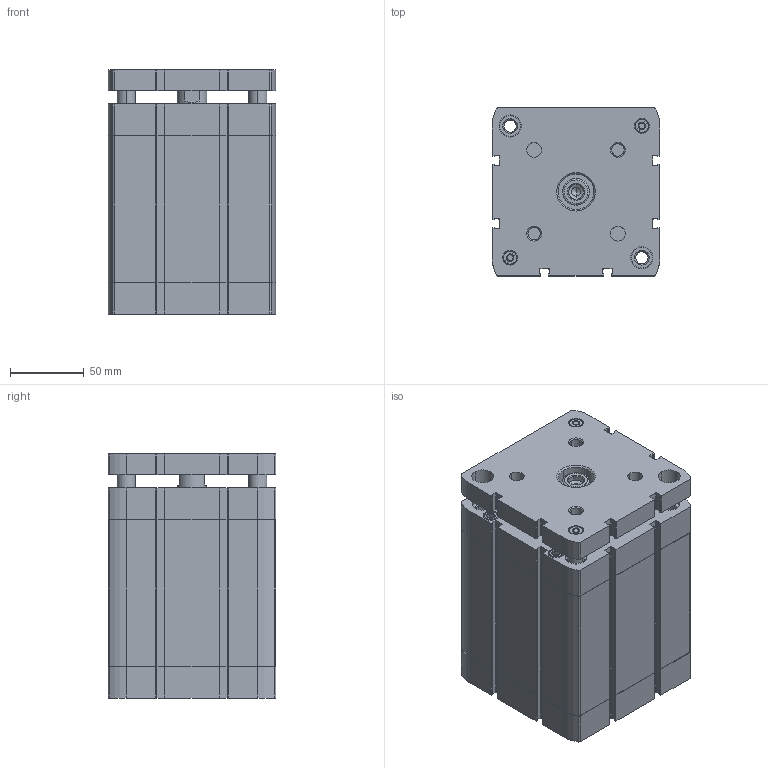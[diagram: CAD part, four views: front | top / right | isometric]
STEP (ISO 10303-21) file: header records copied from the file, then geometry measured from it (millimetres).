
FILE_DESCRIPTION (( 'STEP AP203' ), '1' );
FILE_NAME ('CCNG100-75.STEP', '2017-04-20T18:13:43', ( '' ), ( '' ), 'SwSTEP 2.0', 'SolidWorks 2016', '' );
FILE_SCHEMA (( 'CONFIG_CONTROL_DESIGN' ));
Length unit declared in the file: millimetre
Products named in the file (3): CCNG-100-75---(Z); CCNG-100-75----(KS); CCNG100-75
Assembly tree (2 placements, depth 2):
  CCNG100-75
    CCNG-100-75---(Z)
    CCNG-100-75----(KS)
Bounding box: 113.5 x 113.5 x 165 mm (x, y, z)
Volume: 1333514 mm3; surface area: 247605.9 mm2
Topology: 2 solids, 4 shells, 797 faces, 2098 edges, 1347 vertices
Faces by surface type: plane 343, cylinder 304, cone 144, bspline 6
Entity records: 25497 total; most frequent: CARTESIAN_POINT 5013, DIRECTION 4398, ORIENTED_EDGE 4160, EDGE_CURVE 2080, AXIS2_PLACEMENT_3D 1616, VERTEX_POINT 1347, LINE 1166, VECTOR 1166
